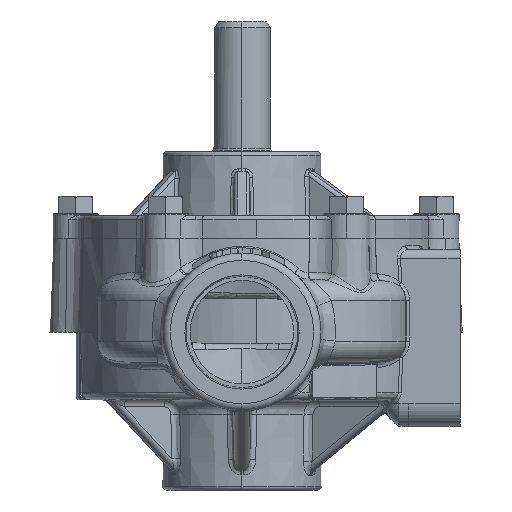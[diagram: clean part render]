
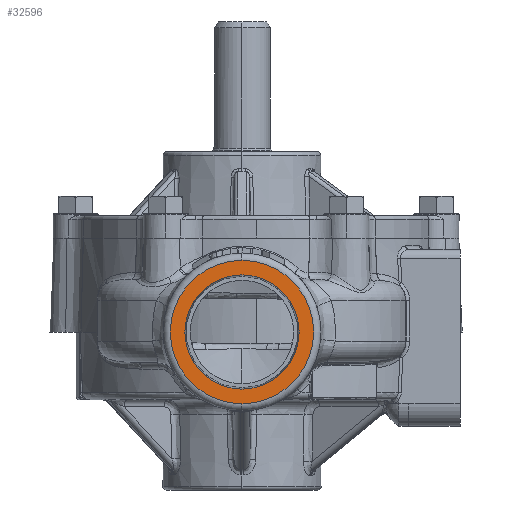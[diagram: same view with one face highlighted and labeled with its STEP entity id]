
A CAD part, left-side view. The second image highlights one B-rep face of the part: STEP entity #32596.
In plain terms, the highlighted planar face has unit normal (-1, 0, 0).
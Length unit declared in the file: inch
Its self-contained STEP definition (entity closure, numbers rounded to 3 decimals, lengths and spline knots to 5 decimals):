
#1898 = CIRCLE ( 'NONE', #30530, 0.94997 ) ;
#2216 = CIRCLE ( 'NONE', #30649, 1.1925 ) ;
#7951 = EDGE_CURVE ( 'NONE', #53158, #53157, #1898, .T. ) ;
#8367 = EDGE_CURVE ( 'NONE', #53201, #53205, #2216, .T. ) ;
#16456 = CARTESIAN_POINT ( 'NONE',  ( -4.375, 0.233, -1.562 ) ) ;
#16458 = DIRECTION ( 'NONE',  ( -1., 0., 0. ) ) ;
#16460 = DIRECTION ( 'NONE',  ( 0., 0., -1. ) ) ;
#21279 = CARTESIAN_POINT ( 'NONE',  ( -4.375, 0.233, -1.562 ) ) ;
#21281 = DIRECTION ( 'NONE',  ( -1., 0., 0. ) ) ;
#21283 = DIRECTION ( 'NONE',  ( 0., 0., 1. ) ) ;
#29695 = AXIS2_PLACEMENT_3D ( 'NONE', #16456, #16458, #16460 ) ;
#29820 = AXIS2_PLACEMENT_3D ( 'NONE', #21279, #21281, #21283 ) ;
#30530 = AXIS2_PLACEMENT_3D ( 'NONE', #39779, #39781, #39783 ) ;
#30649 = AXIS2_PLACEMENT_3D ( 'NONE', #77753, #77754, #77755 ) ;
#31414 = AXIS2_PLACEMENT_3D ( 'NONE', #79420, #79425, #79426 ) ;
#32288 = ORIENTED_EDGE ( 'NONE', *, *, #7951, .F. ) ;
#32289 = ORIENTED_EDGE ( 'NONE', *, *, #46938, .F. ) ;
#32290 = ORIENTED_EDGE ( 'NONE', *, *, #46573, .T. ) ;
#32291 = ORIENTED_EDGE ( 'NONE', *, *, #8367, .T. ) ;
#32596 = ADVANCED_FACE ( 'NONE', ( #57719, #57748 ), #79423, .F. ) ;
#39779 = CARTESIAN_POINT ( 'NONE',  ( -4.375, 0.233, -1.562 ) ) ;
#39781 = DIRECTION ( 'NONE',  ( -1., 0., 0. ) ) ;
#39783 = DIRECTION ( 'NONE',  ( 0., 0., 1. ) ) ;
#41840 = CIRCLE ( 'NONE', #29695, 1.1925 ) ;
#42662 = CIRCLE ( 'NONE', #29820, 0.94997 ) ;
#43467 = CARTESIAN_POINT ( 'NONE',  ( -4.375, 0.233, -2.51197 ) ) ;
#43469 = CARTESIAN_POINT ( 'NONE',  ( -4.375, 0.233, -0.61203 ) ) ;
#43549 = CARTESIAN_POINT ( 'NONE',  ( -4.375, 0.233, -0.3695 ) ) ;
#43557 = CARTESIAN_POINT ( 'NONE',  ( -4.375, 0.233, -2.7545 ) ) ;
#46573 = EDGE_CURVE ( 'NONE', #53205, #53201, #41840, .T. ) ;
#46938 = EDGE_CURVE ( 'NONE', #53157, #53158, #42662, .T. ) ;
#53157 = VERTEX_POINT ( 'NONE', #43467 ) ;
#53158 = VERTEX_POINT ( 'NONE', #43469 ) ;
#53201 = VERTEX_POINT ( 'NONE', #43549 ) ;
#53205 = VERTEX_POINT ( 'NONE', #43557 ) ;
#54120 = EDGE_LOOP ( 'NONE', ( #32288, #32289 ) ) ;
#54135 = EDGE_LOOP ( 'NONE', ( #32290, #32291 ) ) ;
#57719 = FACE_BOUND ( 'NONE', #54120, .T. ) ;
#57748 = FACE_OUTER_BOUND ( 'NONE', #54135, .T. ) ;
#77753 = CARTESIAN_POINT ( 'NONE',  ( -4.375, 0.233, -1.562 ) ) ;
#77754 = DIRECTION ( 'NONE',  ( -1., 0., 0. ) ) ;
#77755 = DIRECTION ( 'NONE',  ( 0., 0., -1. ) ) ;
#79420 = CARTESIAN_POINT ( 'NONE',  ( -4.375, 0.233, -1.562 ) ) ;
#79423 = PLANE ( 'NONE',  #31414 ) ;
#79425 = DIRECTION ( 'NONE',  ( 1., 0., 0. ) ) ;
#79426 = DIRECTION ( 'NONE',  ( 0., 0., -1. ) ) ;
